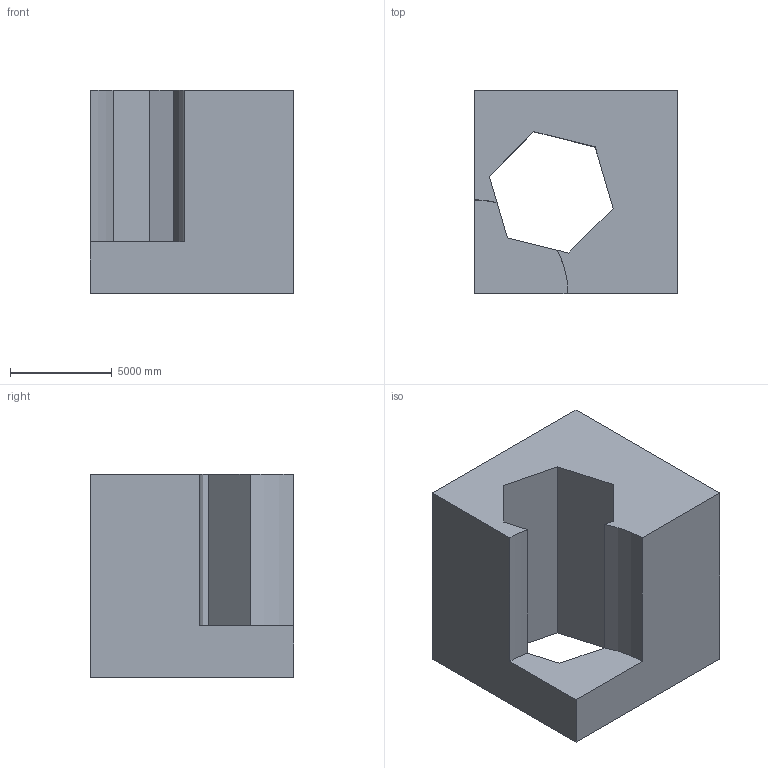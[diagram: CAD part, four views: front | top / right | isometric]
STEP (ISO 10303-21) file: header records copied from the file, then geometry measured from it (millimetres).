
FILE_DESCRIPTION (( 'STEP AP203' ), '1' );
FILE_NAME ('1073.STEP', '2022-08-18T12:39:18', ( 'user' ), ( '' ), 'SwSTEP 2.0', 'SolidWorks 2021', '' );
FILE_SCHEMA (( 'CONFIG_CONTROL_DESIGN' ));
Length unit declared in the file: centimetre
Products named in the file (1): 1073
Bounding box: 10000 x 10000 x 10000 mm (x, y, z)
Volume: 645382399619.3 mm3; surface area: 660574264.3 mm2
Topology: 1 solids, 1 shells, 15 faces, 42 edges, 28 vertices
Faces by surface type: plane 13, cylinder 2
Entity records: 561 total; most frequent: CARTESIAN_POINT 86, ORIENTED_EDGE 84, DIRECTION 78, EDGE_CURVE 42, VECTOR 38, LINE 38, VERTEX_POINT 28, AXIS2_PLACEMENT_3D 20
